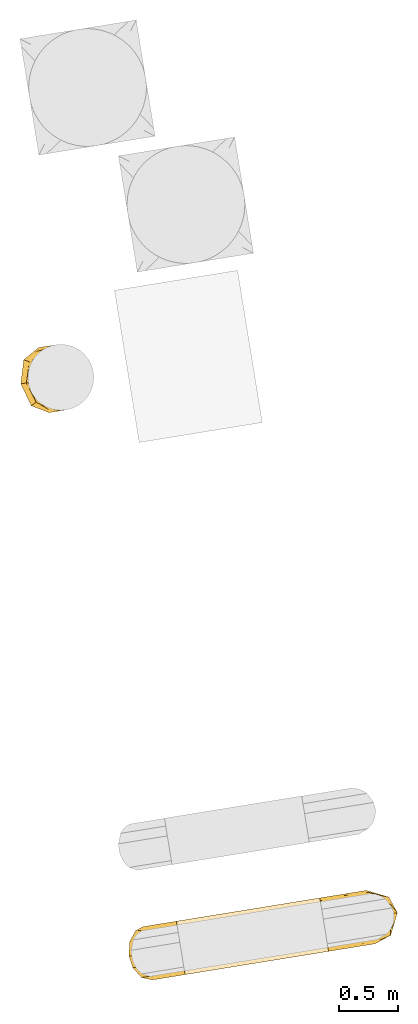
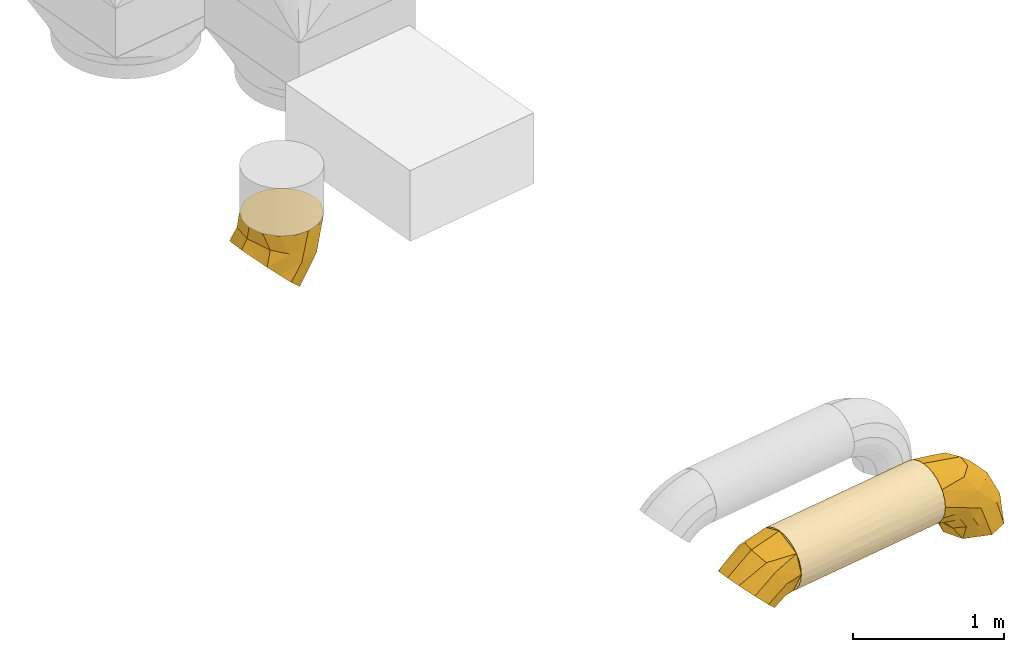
# One storey, part 2 of 6: 4 coverings.
"""IFC2X3 building model written with IfcOpenShell, lengths in millimetres."""

from ifc_helpers import new_model, entity, si_unit, converted_unit, derived_unit, direction, frame, origin, origin_with_axes, place, context, subcontext, project, spatial, faceted_brep, type_object, element, save


model = new_model("IFC2X3")

# Units and contexts
model_context = context("Model", 3, precision=0.01, world=origin(), true_north=direction((6.12323399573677e-17, 1.0)))
plan_context = context("Plan", 3, precision=1e-05, world=origin_with_axes())
body_context = subcontext(model_context, "Body", "Model", "MODEL_VIEW")
ifc_project = project(units=[converted_unit("PLANEANGLEUNIT", "DEGREE", entity("IfcPositiveLengthMeasure", 0.0174532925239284), si_unit("PLANEANGLEUNIT", "RADIAN"), dimensions=[0, 0, 0, 0, 0, 0, 0]), si_unit("AREAUNIT", "SQUARE_METRE"), si_unit("LENGTHUNIT", "METRE", prefix="MILLI"), si_unit("MASSUNIT", "GRAM", prefix="KILO"), si_unit("POWERUNIT", "WATT"), si_unit("PRESSUREUNIT", "PASCAL", prefix="KILO"), si_unit("FORCEUNIT", "NEWTON", prefix="KILO"), si_unit("ELECTRICVOLTAGEUNIT", "VOLT"), si_unit("ELECTRICCURRENTUNIT", "AMPERE"), si_unit("THERMODYNAMICTEMPERATUREUNIT", "DEGREE_CELSIUS"), si_unit("TIMEUNIT", "SECOND"), si_unit("VOLUMEUNIT", "CUBIC_METRE"), derived_unit("LINEARVELOCITYUNIT", [(si_unit("LENGTHUNIT", "METRE"), 1), (si_unit("TIMEUNIT", "SECOND"), -1)]), derived_unit("VOLUMETRICFLOWRATEUNIT", [(si_unit("VOLUMEUNIT", "CUBIC_METRE"), 1), (si_unit("TIMEUNIT", "SECOND"), -1)]), derived_unit("THERMALTRANSMITTANCEUNIT", [(si_unit("POWERUNIT", "WATT"), 1), (si_unit("THERMODYNAMICTEMPERATUREUNIT", "KELVIN"), -1), (si_unit("AREAUNIT", "SQUARE_METRE"), -1)]), derived_unit("SOUNDPRESSUREUNIT", [(si_unit("PRESSUREUNIT", "PASCAL"), 1)])], contexts=[model_context, plan_context])

# Site, building, storey
site_placement = place(None, frame((-0.00071070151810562, 0.00438415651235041, 0.0), z_axis=(0.0, 0.0, 1.0), x_axis=(-0.160236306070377, 0.987078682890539, 0.0)))
site = spatial("IfcSite", under=ifc_project, at=site_placement, Name="Default", CompositionType="ELEMENT")
building_placement = place(site_placement, origin_with_axes())
building = spatial("IfcBuilding", under=site, at=building_placement, CompositionType="ELEMENT")
storey_placement = place(building_placement, frame((0.0, 0.0, 48160.0), z_axis=(0.0, 0.0, 1.0), x_axis=(1.0, 0.0, 0.0)))
storey = spatial("IfcBuildingStorey", under=building, at=storey_placement, Name="Nivå C", CompositionType="ELEMENT", Elevation=48160.0)

# Coverings
covering_type = type_object("IfcCoveringType", Name="Duct Insulation:MuT030", PredefinedType="INSULATION")
covering_1_placement = place(storey_placement, frame((771446.521982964, -596500.400360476, 1718.40472776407), z_axis=(0.0, 0.0, 1.0), x_axis=(1.0, 0.0, 0.0)))
element("IfcCovering", 1, at=covering_1_placement, inside=storey, type_object=covering_type, Name="Duct Insulation:MuT030", ObjectType="Duct Insulation:MuT030", PredefinedType="INSULATION", context=body_context, shape_type="Brep", body=[
    faceted_brep([(131.802012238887, 0.0, 24.3724326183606), (180.415457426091, 0.0, 7.36185243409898), (231.595272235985, 0.0, 1.5952722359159), (282.775087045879, 0.0, 7.36185243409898), (331.388532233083, 0.0, 24.3724326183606), (374.997926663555, 0.0, 51.774031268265), (411.416513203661, 0.0, 88.1926178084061), (438.818111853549, 0.0, 131.802012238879), (455.828692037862, 0.0, 180.415457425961), (461.595272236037, 0.0, 231.595272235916), (455.828692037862, 0.0, 282.77508704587), (438.818111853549, 0.0, 331.388532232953), (411.416513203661, 0.0, 374.997926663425), (374.997926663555, 0.0, 411.416513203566), (331.388532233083, 0.0, 438.818111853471), (282.775087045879, 0.0, 455.828692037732), (231.595272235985, 0.0, 461.595272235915), (180.415457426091, 0.0, 455.828692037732), (131.802012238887, 0.0, 438.818111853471), (88.1926178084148, 0.0, 411.416513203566), (51.7740312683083, 0.0, 374.997926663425), (24.3724326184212, 0.0, 331.388532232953), (7.36185243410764, 0.0, 282.77508704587), (1.59527223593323, 0.0, 231.595272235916), (7.36185243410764, 0.0, 180.415457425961), (24.3724326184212, 0.0, 131.802012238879), (51.7740312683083, 0.0, 88.1926178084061), (88.1926178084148, 0.0, 51.774031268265), (51.7740312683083, 1234.31457505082, 88.1926178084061), (24.3724326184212, 1234.31457505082, 131.802012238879), (7.36185243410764, 1234.31457505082, 180.415457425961), (1.59527223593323, 1234.31457505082, 231.595272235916), (7.36185243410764, 1234.31457505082, 282.77508704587), (24.3724326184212, 1234.31457505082, 331.388532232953), (51.7740312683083, 1234.31457505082, 374.997926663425), (88.1926178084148, 1234.31457505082, 411.416513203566), (131.802012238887, 1234.31457505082, 438.818111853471), (180.415457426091, 1234.31457505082, 455.828692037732), (231.595272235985, 1234.31457505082, 461.595272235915), (282.775087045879, 1234.31457505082, 455.828692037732), (331.388532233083, 1234.31457505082, 438.818111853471), (374.997926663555, 1234.31457505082, 411.416513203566), (411.416513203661, 1234.31457505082, 374.997926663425), (438.818111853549, 1234.31457505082, 331.388532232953), (455.828692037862, 1234.31457505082, 282.77508704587), (461.595272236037, 1234.31457505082, 231.595272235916), (455.828692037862, 1234.31457505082, 180.415457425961), (438.818111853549, 1234.31457505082, 131.802012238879), (411.416513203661, 1234.31457505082, 88.1926178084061), (374.997926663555, 1234.31457505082, 51.774031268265), (331.388532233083, 1234.31457505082, 24.3724326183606), (282.775087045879, 1234.31457505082, 7.36185243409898), (231.595272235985, 1234.31457505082, 1.5952722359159), (180.415457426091, 1234.31457505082, 7.36185243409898), (131.802012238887, 1234.31457505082, 24.3724326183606), (88.1926178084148, 1234.31457505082, 51.774031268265), (6.08194765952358, 617.157291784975, 186.387524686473), (1.59527223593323, 704.771354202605, 231.595272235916), (17.9530573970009, 704.240752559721, 146.407221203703), (36.8487066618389, 617.157288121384, 109.227894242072), (109.227894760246, 617.157287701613, 36.8487063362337), (68.960712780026, 605.663728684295, 68.9607123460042), (156.102441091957, 617.157287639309, 14.3377465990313), (231.595272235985, 704.771372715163, 1.5952722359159), (231.595272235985, 529.543202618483, 1.5952722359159), (276.803018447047, 617.157287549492, 6.08194739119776), (316.783322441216, 704.240754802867, 17.9530570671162), (448.852797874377, 617.157287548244, 156.102441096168), (426.341838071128, 617.157287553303, 109.227894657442), (461.595272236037, 704.771374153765, 231.595272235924), (353.962649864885, 617.157287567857, 36.8487064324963), (394.229831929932, 605.663725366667, 68.9607125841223), (461.595272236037, 529.543200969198, 231.595272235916), (457.108597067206, 617.157287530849, 276.803018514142), (445.23748739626, 704.240756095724, 316.783322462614), (307.088103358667, 617.157287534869, 448.852797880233), (353.962649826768, 617.157287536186, 426.341838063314), (231.595272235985, 704.771374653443, 461.595272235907), (426.341838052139, 617.157287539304, 353.962649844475), (394.229831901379, 605.66372445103, 394.229831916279), (231.595272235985, 529.543200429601, 461.595272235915), (186.387525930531, 617.157287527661, 457.108597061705), (146.407221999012, 704.240756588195, 445.237487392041), (14.337746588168, 617.157287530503, 307.088103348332), (36.8487064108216, 617.157287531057, 353.962649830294), (109.22789463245, 617.157287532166, 426.341838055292), (68.9607125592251, 605.663724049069, 394.229831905)], [[[0, 1, 2, 3, 4, 5, 6, 7, 8, 9, 10, 11, 12, 13, 14, 15, 16, 17, 18, 19, 20, 21, 22, 23, 24, 25, 26, 27]], [[28, 29, 30, 31, 32, 33, 34, 35, 36, 37, 38, 39, 40, 41, 42, 43, 44, 45, 46, 47, 48, 49, 50, 51, 52, 53, 54, 55]], [[56, 57, 30]], [[57, 56, 23]], [[58, 25, 24]], [[59, 29, 28]], [[59, 58, 29]], [[31, 30, 57]], [[27, 60, 0]], [[28, 55, 61]], [[58, 24, 56]], [[54, 53, 62]], [[26, 59, 61]], [[25, 59, 26]], [[60, 55, 54]], [[54, 62, 60]], [[1, 0, 62]], [[25, 58, 59]], [[30, 58, 56]], [[1, 63, 64, 2]], [[53, 52, 63]], [[60, 27, 61]], [[30, 29, 58]], [[62, 0, 60]], [[26, 61, 27]], [[61, 59, 28]], [[23, 56, 24]], [[55, 60, 61]], [[63, 62, 53]], [[63, 1, 62]], [[65, 3, 64]], [[3, 66, 4]], [[47, 67, 68]], [[69, 67, 46]], [[70, 50, 49]], [[70, 66, 50]], [[65, 52, 51]], [[4, 70, 5]], [[3, 2, 64]], [[66, 3, 65]], [[49, 48, 71]], [[5, 70, 71]], [[68, 48, 47]], [[4, 66, 70]], [[8, 7, 67]], [[65, 64, 63, 52]], [[51, 50, 66]], [[8, 69, 72, 9]], [[46, 45, 69]], [[6, 68, 7]], [[68, 6, 71]], [[67, 7, 68]], [[5, 71, 6]], [[69, 8, 67]], [[71, 70, 49]], [[48, 68, 71]], [[51, 66, 65]], [[47, 46, 67]], [[73, 10, 72]], [[10, 74, 11]], [[40, 75, 76]], [[77, 75, 39]], [[78, 43, 42]], [[78, 74, 43]], [[73, 45, 44]], [[11, 78, 12]], [[10, 9, 72]], [[74, 10, 73]], [[42, 41, 79]], [[12, 78, 79]], [[76, 41, 40]], [[11, 74, 78]], [[15, 14, 75]], [[73, 72, 69, 45]], [[44, 43, 74]], [[15, 77, 80, 16]], [[39, 38, 77]], [[13, 76, 14]], [[76, 13, 79]], [[75, 14, 76]], [[12, 79, 13]], [[77, 15, 75]], [[79, 78, 42]], [[41, 76, 79]], [[44, 74, 73]], [[40, 39, 75]], [[81, 17, 80]], [[17, 82, 18]], [[33, 83, 84]], [[57, 83, 32]], [[85, 36, 35]], [[85, 82, 36]], [[81, 38, 37]], [[18, 85, 19]], [[17, 16, 80]], [[82, 17, 81]], [[35, 34, 86]], [[19, 85, 86]], [[84, 34, 33]], [[18, 82, 85]], [[22, 21, 83]], [[81, 80, 77, 38]], [[37, 36, 82]], [[57, 23, 22]], [[32, 31, 57]], [[20, 84, 21]], [[84, 20, 86]], [[83, 21, 84]], [[19, 86, 20]], [[57, 22, 83]], [[86, 85, 35]], [[34, 84, 86]], [[37, 82, 81]], [[33, 32, 83]]]),
])
covering_2_placement = place(storey_placement, frame((771446.521982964, -597131.995632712, 1548.40472776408), z_axis=(0.0, 0.0, 1.0), x_axis=(1.0, 0.0, 0.0)))
element("IfcCovering", 2, at=covering_2_placement, inside=storey, type_object=covering_type, Name="Duct Insulation:MuT030", ObjectType="Duct Insulation:MuT030", PredefinedType="INSULATION", context=body_context, shape_type="Brep", body=[
    faceted_brep([(1.59527223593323, 631.595272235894, 401.595272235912), (36.8512317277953, 631.595272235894, 523.966668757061), (131.805867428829, 631.595272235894, 608.819968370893), (231.595272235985, 631.595272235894, 631.595272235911), (353.966668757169, 631.595272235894, 596.339312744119), (438.819968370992, 631.595272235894, 501.38467704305), (461.595272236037, 631.595272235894, 401.595272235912), (437.150450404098, 631.595272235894, 316.748709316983), (426.339312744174, 631.595272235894, 279.223875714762), (378.861994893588, 631.595272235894, 236.797225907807), (331.384677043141, 631.595272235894, 194.37057610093), (231.595272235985, 631.595272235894, 171.595272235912), (109.2238757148, 631.595272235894, 206.851231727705), (24.3705761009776, 631.595272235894, 301.805867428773), (1.59527223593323, 231.595272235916, 1.5952722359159), (21.1321493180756, 272.164015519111, 1.5952722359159), (40.669026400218, 312.732758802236, 1.5952722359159), (64.4308221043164, 362.07463600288, 1.59527223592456), (88.1926178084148, 411.416513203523, 1.5952722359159), (231.595272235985, 461.595272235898, 1.5952722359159), (321.505892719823, 418.296599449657, 1.59527223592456), (411.416513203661, 374.997926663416, 1.5952722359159), (432.203067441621, 315.593367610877, 1.5952722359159), (461.595272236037, 231.595272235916, 1.5952722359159), (418.296599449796, 141.684651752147, 1.5952722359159), (374.997926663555, 51.774031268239, 1.5952722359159), (231.595272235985, 1.59527223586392, 1.5952722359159), (150.402127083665, 40.6958301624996, 1.5952722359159), (51.7740312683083, 88.1926178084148, 1.5952722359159), (231.595272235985, 85.999267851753, 316.595272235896), (151.900191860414, 148.432506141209, 383.306690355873), (101.112206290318, 83.1556392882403, 217.493303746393), (31.3907231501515, 165.647230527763, 216.733217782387), (20.9422803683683, 330.362904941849, 391.018554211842), (79.3124404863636, 226.871582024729, 406.318936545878), (231.595272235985, 316.595272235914, 547.191276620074), (138.110720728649, 328.846791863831, 531.330544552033), (1.59527223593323, 325.177494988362, 258.710316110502), (65.9276290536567, 417.804926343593, 518.686153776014), (1.59527223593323, 278.386383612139, 130.152794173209), (1.59527223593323, 250.864479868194, 54.536985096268), (1.59527223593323, 530.645701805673, 354.521714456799), (1.59527223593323, 429.696131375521, 307.448156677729), (55.6827359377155, 406.653497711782, 114.815478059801), (47.6177024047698, 464.728216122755, 203.54506282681), (135.65921753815, 459.084378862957, 83.4917692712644), (22.8582703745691, 520.319757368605, 283.867814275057), (17.4638146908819, 383.340831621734, 197.188976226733), (132.597646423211, 534.249460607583, 167.546976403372), (231.595272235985, 511.387119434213, 121.803425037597), (16.5475155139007, 333.844023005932, 114.461323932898), (334.402835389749, 486.81292175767, 131.107641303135), (412.364039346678, 467.669603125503, 200.557400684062), (396.494717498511, 412.731412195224, 99.2509756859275), (461.595272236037, 297.655591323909, 183.094507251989), (461.595272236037, 270.133687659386, 107.478698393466), (447.809088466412, 321.954761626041, 88.3633765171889), (446.210177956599, 359.757846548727, 165.239041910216), (461.595272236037, 530.645702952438, 354.521714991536), (461.595272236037, 480.17091831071, 330.984936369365), (461.595272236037, 429.696133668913, 307.448157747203), (461.595272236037, 325.177494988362, 258.710316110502), (428.498744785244, 532.327629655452, 264.620947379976), (441.100235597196, 215.593604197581, 269.694657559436), (395.870031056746, 109.232777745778, 206.127292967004), (387.327795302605, 229.07092488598, 404.119593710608), (404.038203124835, 419.296076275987, 511.348934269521), (331.909018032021, 361.801204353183, 545.309735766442), (316.071247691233, 49.9055712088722, 197.913181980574), (310.851003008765, 159.523347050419, 397.192570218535), (447.724563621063, 403.397677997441, 422.363282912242)], [[[0, 1, 2, 3, 4, 5, 6, 7, 8, 9, 10, 11, 12, 13]], [[14, 15, 16, 17, 18, 19, 20, 21, 22, 23, 24, 25, 26, 27, 28]], [[29, 30, 31]], [[27, 31, 28]], [[32, 14, 28]], [[28, 31, 32]], [[1, 0, 33]], [[32, 31, 34]], [[30, 34, 31]], [[27, 26, 29]], [[35, 3, 2]], [[34, 30, 36]], [[37, 32, 33]], [[36, 38, 34]], [[33, 34, 38]], [[32, 37, 39, 40, 14]], [[33, 0, 41, 42, 37]], [[29, 31, 27]], [[29, 35, 30]], [[33, 32, 34]], [[36, 30, 35]], [[35, 2, 36]], [[38, 2, 1]], [[2, 38, 36]], [[33, 38, 1]], [[39, 16, 15, 14, 40]], [[43, 44, 45]], [[46, 41, 13]], [[19, 18, 45]], [[42, 44, 47]], [[43, 45, 18]], [[45, 48, 49]], [[46, 44, 42]], [[48, 11, 49]], [[45, 49, 19]], [[46, 12, 44]], [[44, 48, 45]], [[11, 48, 12]], [[13, 41, 0]], [[50, 39, 37]], [[48, 44, 12]], [[47, 44, 43]], [[50, 16, 39]], [[37, 47, 50]], [[43, 18, 17]], [[47, 43, 50]], [[42, 47, 37]], [[43, 17, 50]], [[16, 50, 17]], [[41, 46, 42]], [[12, 46, 13]], [[51, 52, 53]], [[20, 19, 51]], [[54, 55, 56]], [[57, 56, 53]], [[10, 52, 51]], [[51, 49, 11]], [[11, 10, 51]], [[20, 51, 53]], [[8, 7, 6, 58, 59]], [[53, 21, 20]], [[52, 60, 61]], [[62, 60, 52]], [[57, 61, 54]], [[62, 10, 9, 8]], [[55, 23, 22]], [[49, 51, 19]], [[57, 52, 61]], [[56, 22, 21]], [[52, 57, 53]], [[54, 56, 57]], [[21, 53, 56]], [[55, 22, 56]], [[62, 52, 10]], [[8, 59, 62]], [[60, 62, 59]], [[24, 63, 64]], [[65, 66, 67]], [[25, 68, 26]], [[69, 64, 65]], [[4, 67, 66]], [[70, 63, 61]], [[70, 61, 60, 59, 58, 6]], [[24, 64, 25]], [[29, 68, 69]], [[23, 63, 24]], [[67, 3, 35]], [[69, 67, 35]], [[63, 70, 65]], [[25, 64, 68]], [[64, 63, 65]], [[70, 6, 5]], [[69, 68, 64]], [[63, 23, 55, 54, 61]], [[26, 68, 29]], [[67, 69, 65]], [[35, 29, 69]], [[65, 70, 66]], [[3, 67, 4]], [[70, 5, 66]], [[4, 66, 5]]]),
])
covering_3_placement = place(storey_placement, frame((771446.521982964, -595267.681057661, 2181.59527223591), z_axis=(0.0, 0.0, 1.0), x_axis=(1.0, 0.0, 0.0)))
element("IfcCovering", 3, at=covering_3_placement, inside=storey, type_object=covering_type, Name="Duct Insulation:MuT030", ObjectType="Duct Insulation:MuT030", PredefinedType="INSULATION", context=body_context, shape_type="Brep", body=[
    faceted_brep([(231.595272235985, 121.803425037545, -511.387119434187), (109.2238757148, 146.733153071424, -486.457391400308), (24.3705761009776, 213.876219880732, -419.314324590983), (1.59527223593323, 284.437984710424, -348.752559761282), (36.8512317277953, 370.967629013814, -262.222915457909), (131.805867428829, 430.967972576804, -202.22257189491), (231.595272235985, 447.072544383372, -186.118000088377), (353.966668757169, 422.142816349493, -211.047728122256), (438.819968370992, 354.999749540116, -278.190794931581), (461.595272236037, 284.437984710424, -348.752559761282), (426.339312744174, 197.908340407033, -435.282204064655), (331.384677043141, 137.907996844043, -495.282547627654), (1.59527223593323, 1.59527223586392, -231.595272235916), (46.0054847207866, 1.59527223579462, -323.814028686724), (88.1926178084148, 1.59527223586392, -411.416513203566), (180.408332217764, 1.59527223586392, -443.68418726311), (231.595272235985, 1.59527223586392, -461.595272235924), (327.491754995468, 1.59527223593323, -415.413960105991), (411.416513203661, 1.59527223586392, -374.997926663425), (461.595272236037, 1.59527223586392, -231.595272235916), (422.529238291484, 1.59527223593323, -150.473816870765), (374.997926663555, 1.59527223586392, -51.7740312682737), (231.595272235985, 1.59527223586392, -1.5952722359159), (149.876986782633, 1.59527223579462, -40.94872440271), (51.7740312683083, 1.59527223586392, -88.1926178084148), (96.6543355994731, 222.990079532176, -88.7515351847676), (36.9511520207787, 193.765826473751, -145.685446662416), (231.595272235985, 242.685834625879, -49.5511667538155), (1.59527223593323, 187.289105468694, -289.219649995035), (1.59527223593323, 125.202069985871, -251.172665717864), (122.094784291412, 70.7142599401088, -446.330193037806), (231.595272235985, 45.5945099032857, -467.387881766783), (34.1070307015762, 107.324992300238, -370.048987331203), (388.111615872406, 89.5806539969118, -417.500531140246), (442.04464019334, 97.9670850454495, -339.898710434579), (461.595272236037, 125.202069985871, -251.172665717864), (461.595272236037, 187.28910740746, -289.219651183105), (407.33653520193, 206.756056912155, -123.044680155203), (328.407865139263, 214.235145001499, -61.3170713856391)], [[[0, 1, 2, 3, 4, 5, 6, 7, 8, 9, 10, 11]], [[12, 13, 14, 15, 16, 17, 18, 19, 20, 21, 22, 23, 24]], [[4, 25, 5]], [[24, 25, 26]], [[23, 25, 24]], [[12, 24, 26]], [[25, 27, 5]], [[3, 26, 4]], [[27, 6, 5]], [[23, 22, 27]], [[26, 3, 28, 29]], [[27, 25, 23]], [[25, 4, 26]], [[12, 26, 29]], [[30, 15, 14]], [[28, 3, 2]], [[13, 12, 29]], [[31, 16, 15]], [[29, 32, 13]], [[32, 30, 14]], [[28, 32, 29]], [[1, 30, 32]], [[30, 31, 15]], [[0, 31, 30]], [[13, 32, 14]], [[1, 32, 2]], [[32, 28, 2]], [[30, 1, 0]], [[18, 33, 34]], [[19, 34, 35]], [[11, 10, 33]], [[19, 18, 34]], [[17, 11, 33]], [[31, 0, 11]], [[10, 34, 33]], [[11, 17, 31]], [[36, 34, 10]], [[34, 36, 35]], [[17, 33, 18]], [[31, 17, 16]], [[10, 9, 36]], [[8, 37, 20]], [[8, 7, 37]], [[22, 21, 38]], [[35, 20, 19]], [[20, 37, 21]], [[38, 6, 27]], [[21, 37, 38]], [[7, 38, 37]], [[8, 20, 35]], [[22, 38, 27]], [[8, 35, 36, 9]], [[7, 6, 38]]]),
])
covering_4_placement = place(storey_placement, frame((776342.970766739, -595318.775771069, 2183.30205342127), z_axis=(0.0, 0.0, 1.0), x_axis=(1.0, 0.0, 0.0)))
element("IfcCovering", 4, at=covering_4_placement, inside=storey, type_object=covering_type, Name="Duct Insulation:MuT030", ObjectType="Duct Insulation:MuT030", PredefinedType="INSULATION", context=body_context, shape_type="Brep", body=[
    faceted_brep([(281.59527223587, 561.595272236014, -1.59527223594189), (167.706450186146, 537.386859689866, -1.59527223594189), (73.5114258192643, 468.94818216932, -1.59527223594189), (15.2974486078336, 368.113877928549, -1.59527223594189), (1.59527223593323, 281.595272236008, -1.59527223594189), (25.8036847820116, 167.706450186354, -1.59527223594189), (94.2423623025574, 73.5114258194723, -1.59527223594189), (195.076666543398, 15.2974486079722, -1.59527223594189), (281.59527223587, 1.59527223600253, -1.59527223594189), (395.484094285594, 25.8036847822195, -1.59527223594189), (489.679118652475, 94.242362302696, -1.59527223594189), (547.893095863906, 195.076666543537, -1.59527223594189), (561.595272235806, 281.595272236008, -1.59527223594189), (537.386859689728, 395.484094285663, -1.59527223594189), (468.948182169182, 489.679118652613, -1.59527223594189), (368.113877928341, 547.893095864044, -1.59527223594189), (83.6053735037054, 288.041881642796, -495.148662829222), (43.0679163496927, 357.243649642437, -425.946894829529), (1.59527223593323, 428.041881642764, -355.148662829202), (42.60032286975, 498.041881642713, -285.148662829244), (83.6053735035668, 568.041881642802, -215.148662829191), (165.799368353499, 592.11594536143, -191.074599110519), (281.59527223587, 626.031780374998, -157.158764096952), (397.391180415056, 592.115944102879, -191.074600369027), (479.585170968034, 568.041881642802, -215.148662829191), (520.590221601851, 498.041881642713, -285.148662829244), (561.595272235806, 428.041881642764, -355.148662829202), (520.122628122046, 357.24364964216, -425.946894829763), (479.585170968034, 288.041881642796, -495.148662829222), (380.590221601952, 259.046932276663, -524.14361219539), (281.59527223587, 230.0519829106, -553.138561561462), (182.600322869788, 259.046932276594, -524.143612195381), (281.59527223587, 45.3662745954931, -259.212940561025), (149.202870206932, 95.8458318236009, -297.133735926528), (57.48090116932, 165.071556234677, -258.341554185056), (1.59527223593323, 336.092010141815, -228.590522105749), (1.59527223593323, 313.976063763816, -136.470975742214), (27.7135439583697, 425.523042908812, -139.695352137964), (107.07301240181, 521.723596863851, -108.609851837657), (281.59527223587, 578.341775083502, -85.7856273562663), (455.706847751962, 523.629084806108, -112.299020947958), (561.595272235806, 313.976062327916, -136.470969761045), (561.595272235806, 336.092010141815, -228.59052210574), (533.513066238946, 443.364338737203, -169.876292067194), (517.835587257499, 174.592493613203, -234.918115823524), (438.641562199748, 102.36282059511, -273.975530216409)], [[[0, 1, 2, 3, 4, 5, 6, 7, 8, 9, 10, 11, 12, 13, 14, 15]], [[16, 17, 18, 19, 20, 21, 22, 23, 24, 25, 26, 27, 28, 29, 30, 31]], [[31, 32, 33]], [[17, 34, 35]], [[35, 18, 17]], [[34, 17, 16]], [[5, 35, 34]], [[16, 33, 34]], [[33, 7, 6]], [[32, 7, 33]], [[34, 6, 5]], [[5, 4, 36, 35]], [[31, 30, 32]], [[33, 16, 31]], [[8, 7, 32]], [[6, 34, 33]], [[19, 35, 37]], [[20, 37, 38]], [[39, 22, 21]], [[38, 21, 20]], [[38, 37, 2]], [[2, 1, 38]], [[37, 36, 3]], [[37, 20, 19]], [[36, 4, 3]], [[37, 3, 2]], [[38, 1, 39]], [[1, 0, 39]], [[35, 19, 18]], [[21, 38, 39]], [[36, 37, 35]], [[14, 40, 15]], [[13, 12, 41]], [[42, 25, 43]], [[25, 42, 26]], [[43, 24, 40]], [[43, 14, 13]], [[39, 23, 22]], [[0, 15, 39]], [[40, 39, 15]], [[40, 23, 39]], [[43, 40, 14]], [[42, 43, 41]], [[41, 43, 13]], [[24, 23, 40]], [[25, 24, 43]], [[10, 44, 11]], [[9, 32, 45]], [[32, 29, 45]], [[27, 44, 28]], [[44, 42, 11]], [[42, 27, 26]], [[27, 42, 44]], [[29, 28, 45]], [[9, 8, 32]], [[28, 44, 45]], [[10, 45, 44]], [[10, 9, 45]], [[29, 32, 30]], [[11, 42, 41, 12]]]),
])

save(model, "model.ifc")
